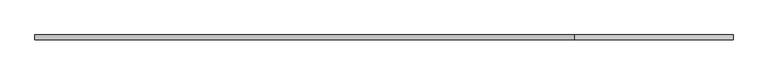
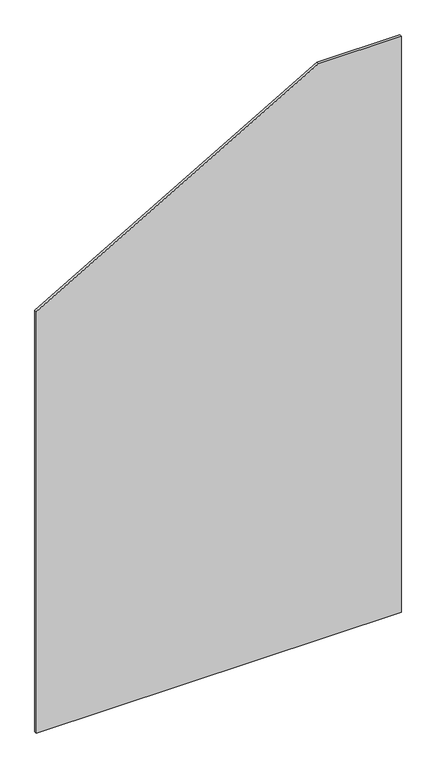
"""IFC4 building model written with IfcOpenShell, lengths in millimetres: plate geometry, 系統嵌板 : 玻璃 1.0cm."""

from ifc_helpers import new_model, si_unit, frame, origin, place, context, project, spatial, polyline, outline, extrude, source, transform, mapped, element, save


def plate_3b3882b3(model_context):
    return source(origin(), model_context, "Body", "SweptSolid", [
        extrude(outline(polyline([(0.0, -750.0), (0.0, 750.0), (2500.0, 750.0), (2500.0, 410.2540378), (1830.1270189, -750.0), (0.0, -750.0)])), frame((0.0, -5.0, 0.0), z_axis=(0.0, 1.0, 0.0), x_axis=(0.0, 0.0, 1.0)), (0.0, 0.0, 1.0), 10.0),
    ])


if __name__ == "__main__":
    model = new_model("IFC4")
    model_context = context("Model", 3, world=origin())
    ifc_project = project(units=[si_unit("LENGTHUNIT", "METRE", prefix="MILLI")], contexts=[model_context])
    site = spatial("IfcSite", under=ifc_project)
    building = spatial("IfcBuilding", under=site)
    placement = place(None, origin())
    plate_shape = plate_3b3882b3(model_context)
    element("IfcPlate", 1, ObjectType="系統嵌板 : 玻璃 1.0cm", at=placement, inside=building, context=model_context, shape_type="MappedRepresentation", body=[
        mapped(plate_shape, transform((0.0, 0.0, 0.0), x_axis=(1.0, 0.0, 0.0), y_axis=(0.0, 1.0, 0.0), z_axis=(0.0, 0.0, 1.0))),
    ])
    save(model, "model.ifc")
